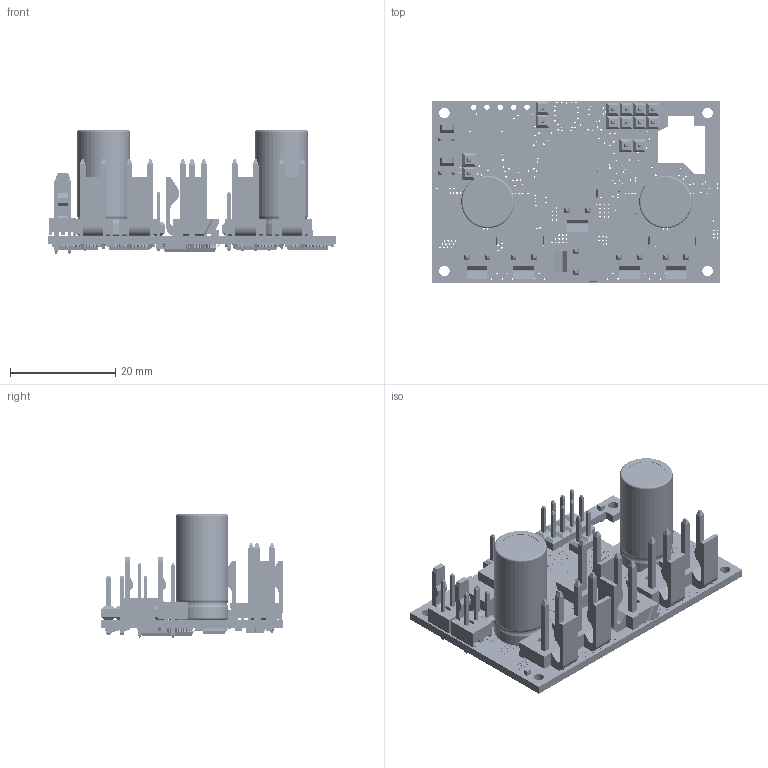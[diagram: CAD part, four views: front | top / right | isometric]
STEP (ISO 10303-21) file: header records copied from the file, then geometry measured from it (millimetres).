
FILE_DESCRIPTION(/* description */ (''),/* implementation_level */ '2;1');
FILE_NAME(/* name */ 'C:/Users/priba/Downloads/mrm-mot4x10.step',/* time_stamp */ '2020-09-13T09:37:14+02:00',/* author */ (''),/* organization */ (''),/* preprocessor_version */ 'ST-DEVELOPER v18.1',/* originating_system */ 'Autodesk Translation Framework v9.3.0.1241',/* authorisation */ '');
FILE_SCHEMA (('AUTOMOTIVE_DESIGN { 1 0 10303 214 3 1 1 }'));
Length unit declared in the file: millimetre
Products named in the file (37): mrm-mot4x10; PCB Component; Board; MOLEX_1718130002; 1.5kOhm; ON_SEMICONDUCTOR_RB751S40T1G; DIODES_MMBT3904-7-F; AON7418; FIDUCIAL1X2; TI_DRV8873SPWPR; Body; PinsArrayLR; ThermalPad; 100nF/50V; JST_BM04B-GHK-TBT; CONN_051X05_PINLESS; STM32F072RBT6; Body (1); PinsArrayLR (1); PinsArrayTB; MOLEX_22-27-2021; VISHAY_SI2347DS-T1-GE3; 470uF; CONN_04X2; CONN_02; SML-P11MTT86R; 1.5kOhm/0603; TI_ESD321DPYR; term1; term2; body_1; TI_TPD8E003DQDR; Body (2); ThermalPin; PinsArrayLR (2); MICROCHIP_ATA6561-GBQW-N; EPSON_TSX-3225
Assembly tree (106 placements, depth 4):
  mrm-mot4x10
    PCB Component
      Board
      MOLEX_1718130002  x6
      1.5kOhm  x17
      ON_SEMICONDUCTOR_RB751S40T1G
      DIODES_MMBT3904-7-F
      AON7418
      FIDUCIAL1X2  x4
      TI_DRV8873SPWPR  x4
        Body
        PinsArrayLR
        ThermalPad
      100nF/50V  x31
      JST_BM04B-GHK-TBT  x2
      CONN_051X05_PINLESS
      STM32F072RBT6
        Body (1)
        PinsArrayLR (1)
        PinsArrayTB
      MOLEX_22-27-2021  x2
      VISHAY_SI2347DS-T1-GE3
      470uF  x2
      CONN_04X2
      CONN_02  x3
      SML-P11MTT86R  x2
      1.5kOhm/0603  x2
      TI_ESD321DPYR  x7
        term1
        term2
        body_1
      TI_TPD8E003DQDR
        Body (2)
        ThermalPin
        PinsArrayLR (2)
      MICROCHIP_ATA6561-GBQW-N
      EPSON_TSX-3225
Bounding box: 54.6 x 34.6 x 23.41 mm (x, y, z)
Volume: 8424 mm3; surface area: 11871.1 mm2
Topology: 301 solids, 301 shells, 7556 faces, 20139 edges, 13071 vertices
Faces by surface type: plane 4475, cylinder 2429, sphere 568, bspline 64, torus 20
Full cylindrical faces by diameter (mm): 0.169 x1, 0.3 x451, 0.55 x4, 0.6 x4, 0.7 x4, 1.016 x19, 1.05 x4, 1.25 x1, 1.65 x12, 2 x4, 7.333 x2
Entity records: 88866 total; most frequent: CARTESIAN_POINT 16679, DIRECTION 14257, ORIENTED_EDGE 13992, EDGE_CURVE 6996, LINE 4861, VECTOR 4861, AXIS2_PLACEMENT_3D 4698, VERTEX_POINT 4579
